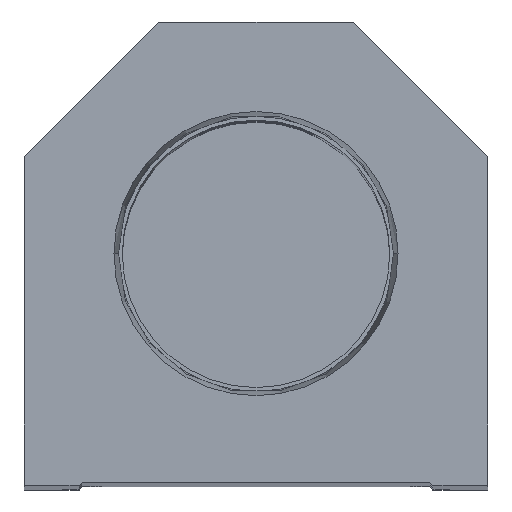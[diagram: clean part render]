
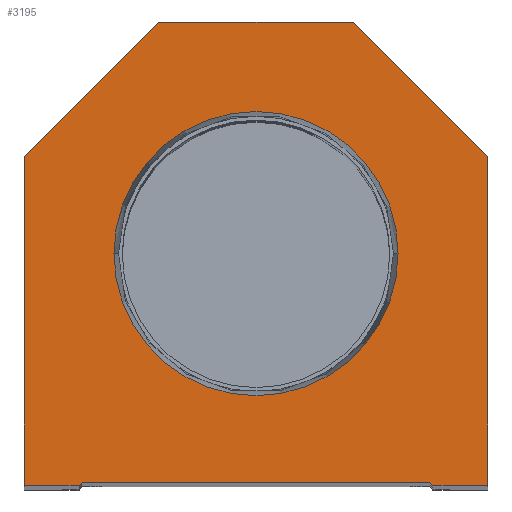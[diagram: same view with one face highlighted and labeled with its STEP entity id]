
A CAD part, top view. The second image highlights one B-rep face of the part: STEP entity #3195.
In plain terms, the highlighted planar face has unit normal (0, 0, 1).
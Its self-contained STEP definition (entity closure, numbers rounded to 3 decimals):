
#189 = CARTESIAN_POINT ( 'NONE',  ( -38.1, 54.1, 0. ) ) ;
#453 = CARTESIAN_POINT ( 'NONE',  ( -29.1, 0., 0. ) ) ;
#640 = VERTEX_POINT ( 'NONE', #8000 ) ;
#779 = CARTESIAN_POINT ( 'NONE',  ( 0., 0., 0. ) ) ;
#886 = CARTESIAN_POINT ( 'NONE',  ( 23.374, 38.1, 0. ) ) ;
#1188 = ORIENTED_EDGE ( 'NONE', *, *, #18807, .T. ) ;
#1238 = VERTEX_POINT ( 'NONE', #13858 ) ;
#1324 = ORIENTED_EDGE ( 'NONE', *, *, #10100, .T. ) ;
#1600 = VERTEX_POINT ( 'NONE', #19206 ) ;
#2748 = ORIENTED_EDGE ( 'NONE', *, *, #13550, .T. ) ;
#2937 = CARTESIAN_POINT ( 'NONE',  ( -38.1, 0., 0. ) ) ;
#2986 = VECTOR ( 'NONE', #16485, 1000. ) ;
#3048 = ORIENTED_EDGE ( 'NONE', *, *, #4813, .F. ) ;
#3171 = VERTEX_POINT ( 'NONE', #14472 ) ;
#3195 = ADVANCED_FACE ( 'NONE', ( #15957, #9741 ), #6580, .T. ) ;
#3412 = VERTEX_POINT ( 'NONE', #453 ) ;
#3522 = CARTESIAN_POINT ( 'NONE',  ( 14.55, 14.55, 0. ) ) ;
#3544 = VECTOR ( 'NONE', #5813, 1000. ) ;
#3583 = EDGE_LOOP ( 'NONE', ( #3696, #3758, #1188, #13438, #14586, #1324, #3994, #6060, #2748, #7701 ) ) ;
#3604 = EDGE_CURVE ( 'NONE', #1600, #15602, #11098, .T. ) ;
#3651 = EDGE_CURVE ( 'NONE', #3412, #14056, #8960, .T. ) ;
#3696 = ORIENTED_EDGE ( 'NONE', *, *, #19352, .T. ) ;
#3758 = ORIENTED_EDGE ( 'NONE', *, *, #3651, .T. ) ;
#3884 = DIRECTION ( 'NONE',  ( 0., 0., 1. ) ) ;
#3894 = VECTOR ( 'NONE', #9116, 1000. ) ;
#3994 = ORIENTED_EDGE ( 'NONE', *, *, #16844, .T. ) ;
#4190 = VERTEX_POINT ( 'NONE', #6403 ) ;
#4633 = DIRECTION ( 'NONE',  ( 1., 0., 0. ) ) ;
#4813 = EDGE_CURVE ( 'NONE', #17942, #1238, #5098, .T. ) ;
#5098 = CIRCLE ( 'NONE', #14696, 23.374 ) ;
#5210 = EDGE_CURVE ( 'NONE', #11667, #18040, #10352, .T. ) ;
#5784 = CARTESIAN_POINT ( 'NONE',  ( -14.55, 14.55, 0. ) ) ;
#5813 = DIRECTION ( 'NONE',  ( -0.707, 0.707, 0. ) ) ;
#6060 = ORIENTED_EDGE ( 'NONE', *, *, #5210, .T. ) ;
#6067 = CARTESIAN_POINT ( 'NONE',  ( 38.1, 0., 0. ) ) ;
#6125 = ORIENTED_EDGE ( 'NONE', *, *, #8330, .F. ) ;
#6220 = EDGE_LOOP ( 'NONE', ( #3048, #6125 ) ) ;
#6281 = EDGE_CURVE ( 'NONE', #640, #11297, #14958, .T. ) ;
#6331 = DIRECTION ( 'NONE',  ( 0., 0., 1. ) ) ;
#6403 = CARTESIAN_POINT ( 'NONE',  ( 38.1, 0., 0. ) ) ;
#6477 = DIRECTION ( 'NONE',  ( 1., 0., 0. ) ) ;
#6580 = PLANE ( 'NONE',  #12860 ) ;
#7142 = CARTESIAN_POINT ( 'NONE',  ( 16., 76.2, 0. ) ) ;
#7355 = CARTESIAN_POINT ( 'NONE',  ( 16., 76.2, 0. ) ) ;
#7375 = CARTESIAN_POINT ( 'NONE',  ( 0., 38.1, 0. ) ) ;
#7473 = DIRECTION ( 'NONE',  ( 1., 0., 0. ) ) ;
#7481 = LINE ( 'NONE', #15196, #13043 ) ;
#7701 = ORIENTED_EDGE ( 'NONE', *, *, #6281, .T. ) ;
#7775 = CIRCLE ( 'NONE', #18989, 23.374 ) ;
#8000 = CARTESIAN_POINT ( 'NONE',  ( -38.1, 54.1, 0. ) ) ;
#8330 = EDGE_CURVE ( 'NONE', #1238, #17942, #7775, .T. ) ;
#8669 = DIRECTION ( 'NONE',  ( 1., 0., 0. ) ) ;
#8845 = DIRECTION ( 'NONE',  ( -1., 0., 0. ) ) ;
#8858 = CARTESIAN_POINT ( 'NONE',  ( -28.6, 0.5, 0. ) ) ;
#8960 = LINE ( 'NONE', #5784, #2986 ) ;
#8984 = LINE ( 'NONE', #14826, #3544 ) ;
#9116 = DIRECTION ( 'NONE',  ( 0., -1., 0. ) ) ;
#9155 = DIRECTION ( 'NONE',  ( -0.707, -0.707, 0. ) ) ;
#9403 = CARTESIAN_POINT ( 'NONE',  ( 0., 38.1, 0. ) ) ;
#9538 = CARTESIAN_POINT ( 'NONE',  ( -38.1, 0., 0. ) ) ;
#9741 = FACE_OUTER_BOUND ( 'NONE', #3583, .T. ) ;
#10100 = EDGE_CURVE ( 'NONE', #4190, #3171, #13676, .T. ) ;
#10116 = VECTOR ( 'NONE', #18466, 1000. ) ;
#10352 = LINE ( 'NONE', #7355, #14394 ) ;
#10446 = CARTESIAN_POINT ( 'NONE',  ( -16., 76.2, 0. ) ) ;
#10785 = EDGE_CURVE ( 'NONE', #15602, #4190, #7481, .T. ) ;
#11098 = LINE ( 'NONE', #3522, #17661 ) ;
#11297 = VERTEX_POINT ( 'NONE', #9538 ) ;
#11667 = VERTEX_POINT ( 'NONE', #7142 ) ;
#11801 = CARTESIAN_POINT ( 'NONE',  ( -28.6, 0.5, 0. ) ) ;
#12217 = DIRECTION ( 'NONE',  ( 1., 0., 0. ) ) ;
#12860 = AXIS2_PLACEMENT_3D ( 'NONE', #779, #12953, #6477 ) ;
#12953 = DIRECTION ( 'NONE',  ( 0., 0., 1. ) ) ;
#13043 = VECTOR ( 'NONE', #13803, 1000. ) ;
#13438 = ORIENTED_EDGE ( 'NONE', *, *, #3604, .T. ) ;
#13550 = EDGE_CURVE ( 'NONE', #18040, #640, #18390, .T. ) ;
#13676 = LINE ( 'NONE', #6067, #10116 ) ;
#13803 = DIRECTION ( 'NONE',  ( 1., 0., 0. ) ) ;
#13858 = CARTESIAN_POINT ( 'NONE',  ( -23.374, 38.1, 0. ) ) ;
#14056 = VERTEX_POINT ( 'NONE', #11801 ) ;
#14394 = VECTOR ( 'NONE', #8845, 1000. ) ;
#14472 = CARTESIAN_POINT ( 'NONE',  ( 38.1, 54.1, 0. ) ) ;
#14586 = ORIENTED_EDGE ( 'NONE', *, *, #10785, .T. ) ;
#14696 = AXIS2_PLACEMENT_3D ( 'NONE', #9403, #6331, #4633 ) ;
#14826 = CARTESIAN_POINT ( 'NONE',  ( 38.1, 54.1, 0. ) ) ;
#14958 = LINE ( 'NONE', #2937, #3894 ) ;
#15196 = CARTESIAN_POINT ( 'NONE',  ( 28.6, 0., 0. ) ) ;
#15237 = CARTESIAN_POINT ( 'NONE',  ( -28.6, 0., 0. ) ) ;
#15283 = LINE ( 'NONE', #8858, #19255 ) ;
#15453 = VECTOR ( 'NONE', #12217, 1000. ) ;
#15602 = VERTEX_POINT ( 'NONE', #16204 ) ;
#15717 = DIRECTION ( 'NONE',  ( 0.707, -0.707, 0. ) ) ;
#15957 = FACE_BOUND ( 'NONE', #6220, .T. ) ;
#16204 = CARTESIAN_POINT ( 'NONE',  ( 29.1, 0., 0. ) ) ;
#16485 = DIRECTION ( 'NONE',  ( 0.707, 0.707, 0. ) ) ;
#16628 = LINE ( 'NONE', #15237, #15453 ) ;
#16844 = EDGE_CURVE ( 'NONE', #3171, #11667, #8984, .T. ) ;
#17402 = VECTOR ( 'NONE', #9155, 1000. ) ;
#17661 = VECTOR ( 'NONE', #15717, 1000. ) ;
#17942 = VERTEX_POINT ( 'NONE', #886 ) ;
#18040 = VERTEX_POINT ( 'NONE', #10446 ) ;
#18390 = LINE ( 'NONE', #189, #17402 ) ;
#18466 = DIRECTION ( 'NONE',  ( 0., 1., 0. ) ) ;
#18807 = EDGE_CURVE ( 'NONE', #14056, #1600, #15283, .T. ) ;
#18989 = AXIS2_PLACEMENT_3D ( 'NONE', #7375, #3884, #8669 ) ;
#19206 = CARTESIAN_POINT ( 'NONE',  ( 28.6, 0.5, 0. ) ) ;
#19255 = VECTOR ( 'NONE', #7473, 1000. ) ;
#19352 = EDGE_CURVE ( 'NONE', #11297, #3412, #16628, .T. ) ;
